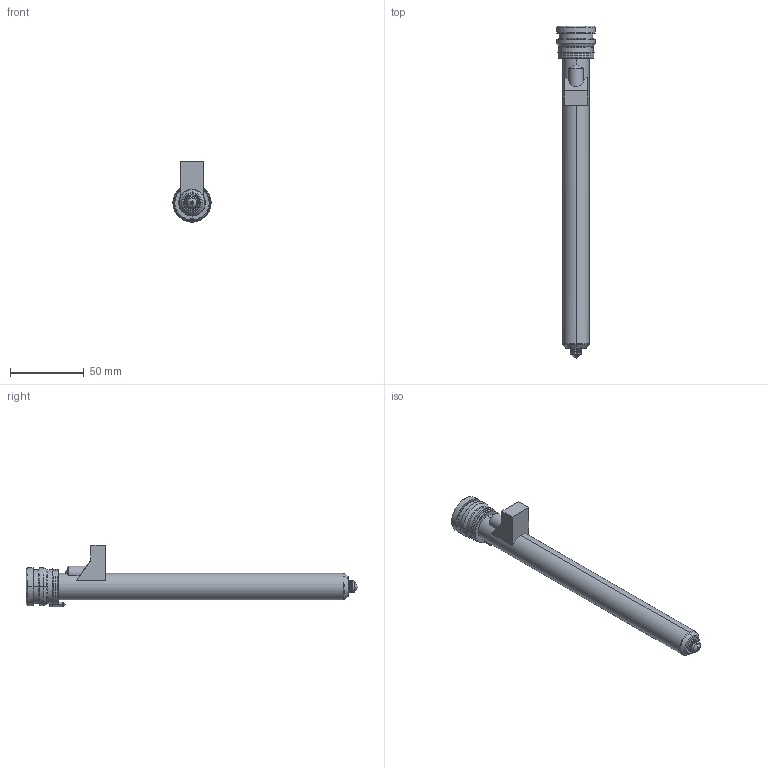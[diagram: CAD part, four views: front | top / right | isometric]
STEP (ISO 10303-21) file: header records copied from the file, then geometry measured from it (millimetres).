
FILE_DESCRIPTION((''),'2;1');
FILE_NAME('MPN-08-24-TX8-206-M','2026-02-05T13:27:10',('UPTIO'),('Thermoplay S.p.A.'),'CREO PARAMETRIC BY PTC INC, 2023494','CREO PARAMETRIC BY PTC INC, 2023494','');
FILE_SCHEMA(('CONFIG_CONTROL_DESIGN','SHAPE_APPEARANCE_LAYERS_GROUPS'));
Length unit declared in the file: millimetre
Products named in the file (1): MPN-08-24-TX8-206-M
Bounding box: 26 x 225.5 x 41.5 mm (x, y, z)
Volume: 41571.1 mm3; surface area: 55972.4 mm2
Topology: 2 solids, 3 shells, 532 faces, 1392 edges, 855 vertices
Faces by surface type: cylinder 174, plane 144, bspline 77, torus 62, cone 58, sphere 11, extrusion 6
Entity records: 28030 total; most frequent: CARTESIAN_POINT 12406, ORIENTED_EDGE 2762, DIRECTION 2491, EDGE_CURVE 1381, AXIS2_PLACEMENT_3D 974, VERTEX_POINT 855, EDGE_LOOP 562, VECTOR 543
